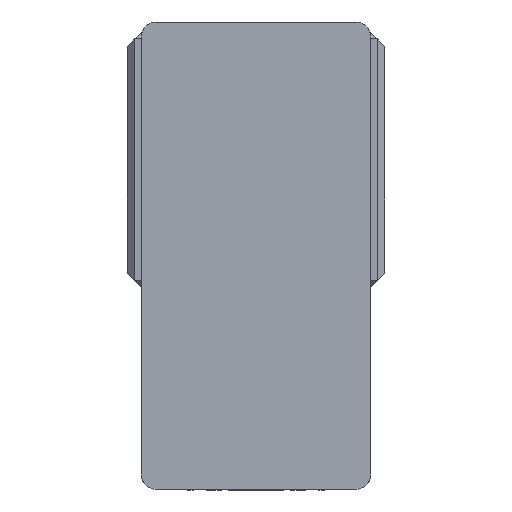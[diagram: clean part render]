
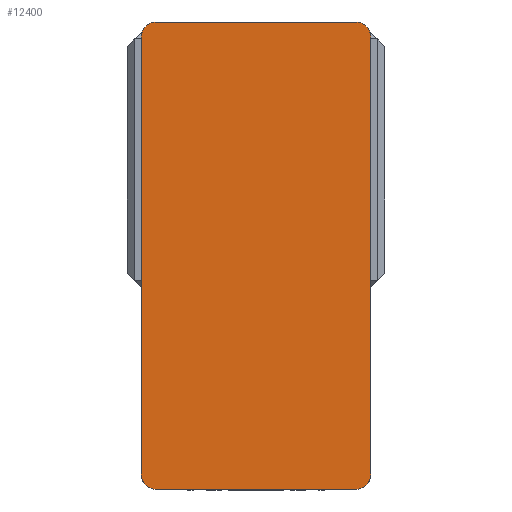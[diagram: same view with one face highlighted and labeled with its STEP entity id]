
A CAD part, left-side view. The second image highlights one B-rep face of the part: STEP entity #12400.
In plain terms, the highlighted planar face has unit normal (-1, 0, 0) as drawn and (0, 0, 1) by its records, which use the part's own axes.
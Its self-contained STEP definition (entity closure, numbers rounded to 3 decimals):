
#161 = ORIENTED_EDGE ( 'NONE', *, *, #1943, .T. ) ;
#935 = DIRECTION ( 'NONE',  ( 0., 0., 1. ) ) ;
#1085 = CARTESIAN_POINT ( 'NONE',  ( 65., 152.5, 105. ) ) ;
#1570 = DIRECTION ( 'NONE',  ( 0., 0., 1. ) ) ;
#1852 = ORIENTED_EDGE ( 'NONE', *, *, #2703, .T. ) ;
#1943 = EDGE_CURVE ( 'NONE', #3112, #7275, #18969, .T. ) ;
#2292 = VECTOR ( 'NONE', #6590, 1000. ) ;
#2311 = ORIENTED_EDGE ( 'NONE', *, *, #19342, .T. ) ;
#2415 = VERTEX_POINT ( 'NONE', #9753 ) ;
#2703 = EDGE_CURVE ( 'NONE', #10369, #5326, #8001, .T. ) ;
#2830 = VERTEX_POINT ( 'NONE', #9111 ) ;
#2834 = CIRCLE ( 'NONE', #8738, 10. ) ;
#3112 = VERTEX_POINT ( 'NONE', #14281 ) ;
#3166 = CIRCLE ( 'NONE', #3343, 10. ) ;
#3227 = CARTESIAN_POINT ( 'NONE',  ( -65., -142.5, 105. ) ) ;
#3343 = AXIS2_PLACEMENT_3D ( 'NONE', #3227, #14168, #4799 ) ;
#3387 = EDGE_CURVE ( 'NONE', #2415, #2830, #3166, .T. ) ;
#4200 = AXIS2_PLACEMENT_3D ( 'NONE', #15116, #5765, #16681 ) ;
#4799 = DIRECTION ( 'NONE',  ( 1., 0., 0. ) ) ;
#4806 = FACE_OUTER_BOUND ( 'NONE', #14621, .T. ) ;
#4923 = VECTOR ( 'NONE', #5375, 1000. ) ;
#5326 = VERTEX_POINT ( 'NONE', #8842 ) ;
#5375 = DIRECTION ( 'NONE',  ( 0., -1., 0. ) ) ;
#5765 = DIRECTION ( 'NONE',  ( 0., 0., 1. ) ) ;
#6209 = CARTESIAN_POINT ( 'NONE',  ( 75., 142.5, 105. ) ) ;
#6590 = DIRECTION ( 'NONE',  ( -1., 0., 0. ) ) ;
#7054 = VECTOR ( 'NONE', #19510, 1000. ) ;
#7275 = VERTEX_POINT ( 'NONE', #6209 ) ;
#7681 = AXIS2_PLACEMENT_3D ( 'NONE', #8751, #935, #11873 ) ;
#7704 = VERTEX_POINT ( 'NONE', #1085 ) ;
#7784 = ORIENTED_EDGE ( 'NONE', *, *, #7829, .T. ) ;
#7829 = EDGE_CURVE ( 'NONE', #2830, #12063, #16429, .T. ) ;
#8001 = CIRCLE ( 'NONE', #4200, 10. ) ;
#8628 = CARTESIAN_POINT ( 'NONE',  ( 75., 152.5, 105. ) ) ;
#8738 = AXIS2_PLACEMENT_3D ( 'NONE', #8885, #19775, #10444 ) ;
#8751 = CARTESIAN_POINT ( 'NONE',  ( 0., 0., 105. ) ) ;
#8842 = CARTESIAN_POINT ( 'NONE',  ( -75., 142.5, 105. ) ) ;
#8885 = CARTESIAN_POINT ( 'NONE',  ( 65., -142.5, 105. ) ) ;
#9111 = CARTESIAN_POINT ( 'NONE',  ( -65., -152.5, 105. ) ) ;
#9546 = ORIENTED_EDGE ( 'NONE', *, *, #19964, .T. ) ;
#9753 = CARTESIAN_POINT ( 'NONE',  ( -75., -142.5, 105. ) ) ;
#10369 = VERTEX_POINT ( 'NONE', #15879 ) ;
#10444 = DIRECTION ( 'NONE',  ( 1., 0., 0. ) ) ;
#10935 = CARTESIAN_POINT ( 'NONE',  ( 65., 142.5, 105. ) ) ;
#11337 = CARTESIAN_POINT ( 'NONE',  ( 65., -152.5, 105. ) ) ;
#11383 = AXIS2_PLACEMENT_3D ( 'NONE', #10935, #1570, #12516 ) ;
#11873 = DIRECTION ( 'NONE',  ( 1., 0., 0. ) ) ;
#12063 = VERTEX_POINT ( 'NONE', #11337 ) ;
#12400 = ADVANCED_FACE ( 'NONE', ( #4806 ), #19637, .T. ) ;
#12516 = DIRECTION ( 'NONE',  ( 1., 0., 0. ) ) ;
#12585 = EDGE_CURVE ( 'NONE', #12063, #3112, #2834, .T. ) ;
#13250 = LINE ( 'NONE', #16291, #4923 ) ;
#14168 = DIRECTION ( 'NONE',  ( 0., 0., 1. ) ) ;
#14277 = LINE ( 'NONE', #15932, #2292 ) ;
#14281 = CARTESIAN_POINT ( 'NONE',  ( 75., -142.5, 105. ) ) ;
#14531 = ORIENTED_EDGE ( 'NONE', *, *, #12585, .T. ) ;
#14621 = EDGE_LOOP ( 'NONE', ( #7784, #14531, #161, #2311, #17721, #1852, #9546, #16806 ) ) ;
#15116 = CARTESIAN_POINT ( 'NONE',  ( -65., 142.5, 105. ) ) ;
#15368 = CARTESIAN_POINT ( 'NONE',  ( -75., -152.5, 105. ) ) ;
#15879 = CARTESIAN_POINT ( 'NONE',  ( -65., 152.5, 105. ) ) ;
#15932 = CARTESIAN_POINT ( 'NONE',  ( -75., 152.5, 105. ) ) ;
#15936 = VECTOR ( 'NONE', #16926, 1000. ) ;
#16291 = CARTESIAN_POINT ( 'NONE',  ( -75., 152.5, 105. ) ) ;
#16429 = LINE ( 'NONE', #15368, #15936 ) ;
#16681 = DIRECTION ( 'NONE',  ( 1., 0., 0. ) ) ;
#16806 = ORIENTED_EDGE ( 'NONE', *, *, #3387, .T. ) ;
#16908 = CIRCLE ( 'NONE', #11383, 10. ) ;
#16926 = DIRECTION ( 'NONE',  ( 1., 0., 0. ) ) ;
#17539 = EDGE_CURVE ( 'NONE', #7704, #10369, #14277, .T. ) ;
#17721 = ORIENTED_EDGE ( 'NONE', *, *, #17539, .T. ) ;
#18969 = LINE ( 'NONE', #8628, #7054 ) ;
#19342 = EDGE_CURVE ( 'NONE', #7275, #7704, #16908, .T. ) ;
#19510 = DIRECTION ( 'NONE',  ( 0., 1., 0. ) ) ;
#19637 = PLANE ( 'NONE',  #7681 ) ;
#19775 = DIRECTION ( 'NONE',  ( 0., 0., 1. ) ) ;
#19964 = EDGE_CURVE ( 'NONE', #5326, #2415, #13250, .T. ) ;
